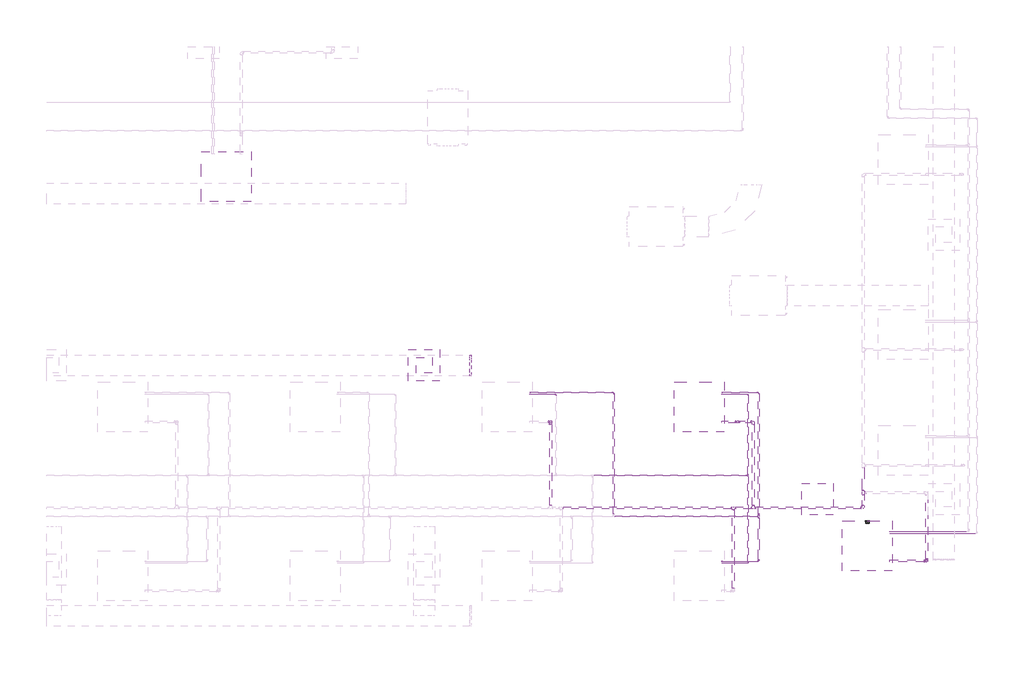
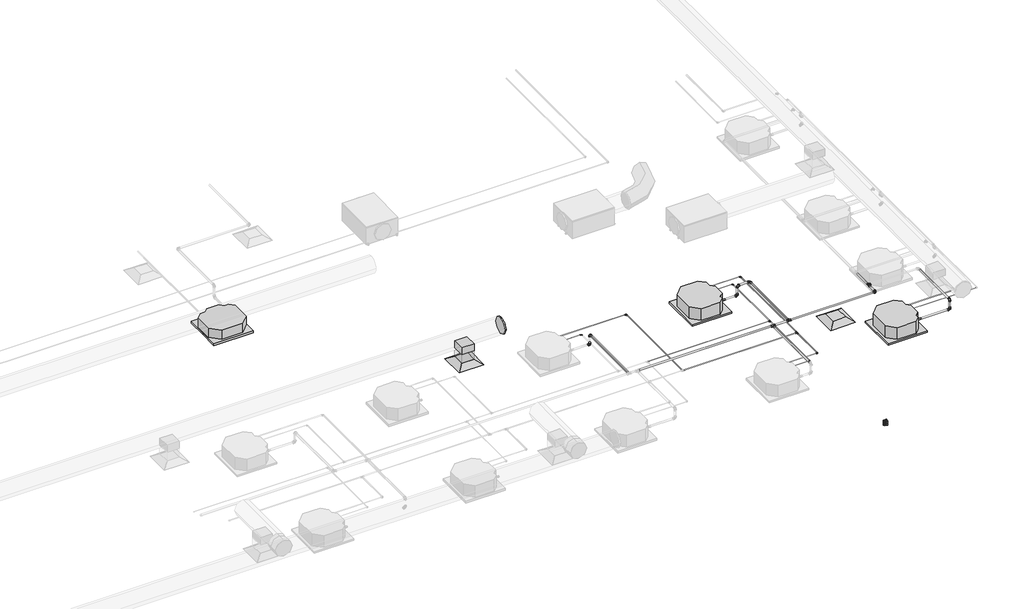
# One storey, part 11 of 22: 30 pipe fittings, 29 pipe segments, 6 proxies, 2 air terminals, 2 duct fittings, 1 cable carrier fitting, 1 duct segment.
"""IFC4 building model written with IfcOpenShell, lengths in millimetres."""

from ifc_helpers import new_model, si_unit, point, frame, frame_2d, origin, place, context, project, spatial, polyline, circle_curve, trimmed, segment, composite_curve, outline, extrude, transform, mapped, element, save
from components import air_terminal_ff221211, electrical_fixtures_bbed43ca, electrical_fixtures_7f7a4e67, mechanical_equipment_77aa587a, mechanical_equipment_53173f38, cable_carrier_fitting_5224564e, duct_fitting_95c1ddea, m_capa_de_extremidade_redonda_c14c7098, pipe_fitting_144f4440, pipe_fitting_14eb6376, pipe_fitting_50f5d43d, pipe_fitting_bac944c5, pipe_fitting_337ff715, pipe_fitting_c900cfc2, pipe_fitting_16c020f5, pipe_fitting_afe73776, pipe_fitting_09966660, pipe_fitting_59d1f3e3, pipe_fitting_648138cd, pipe_fitting_725bd888, pipe_fitting_af483176

model = new_model("IFC4")

# Units and contexts
model_context = context("Model", 3, world=origin())
ifc_project = project(units=[si_unit("LENGTHUNIT", "METRE", prefix="MILLI")], contexts=[model_context])

# Site, building, storey
site = spatial("IfcSite", under=ifc_project)
building = spatial("IfcBuilding", under=site)
storey = spatial("IfcBuildingStorey", under=building, Name="Nível 2", Elevation=3880.0)

# Air terminals
placement = place(None, origin())
air_terminal_shape = air_terminal_ff221211(model_context)
element("IfcAirTerminal", 1, ObjectType="M_Difusor de retorno : 600 x 600 Face 300 x 300 Conexão", at=placement, inside=storey, context=model_context, shape_type="MappedRepresentation", body=[
    mapped(air_terminal_shape, transform((20232.8009118, -3994.5831069, 6880.0), x_axis=(0.0, -1.0, 0.0), y_axis=(1.0, 0.0, 0.0), z_axis=(0.0, 0.0, 1.0))),
])
element("IfcAirTerminal", 2, ObjectType="M_Difusor de retorno : 600 x 600 Face 300 x 300 Conexão", at=placement, inside=storey, context=model_context, shape_type="MappedRepresentation", body=[
    mapped(air_terminal_shape, transform((27714.7064473, -6543.2709697, 6880.0), x_axis=(-1.0, 0.0, 0.0), y_axis=(0.0, -1.0, 0.0), z_axis=(0.0, 0.0, 1.0))),
])

# Proxies
electrical_fixtures_shape = electrical_fixtures_bbed43ca(model_context)
element("IfcBuildingElementProxy", 3, Name="1.b_2 Tomadas 2P+T_Conjunto 4x2 : a. 2 Tomadas 2P+T 10A", ObjectType="1.b_2 Tomadas 2P+T_Conjunto 4x2 : a. 2 Tomadas 2P+T 10A", at=placement, inside=storey, context=model_context, shape_type="MappedRepresentation", body=[
    mapped(electrical_fixtures_shape, transform((28661.1108592, -6958.2885675, 3880.0), x_axis=(1.0, 0.0, 0.0), y_axis=(0.0, 1.0, 0.0), z_axis=(0.0, 0.0, 1.0))),
])
electrical_fixtures_2_shape = electrical_fixtures_7f7a4e67(model_context)
element("IfcBuildingElementProxy", 4, Name="x.Módulo de Tomada não listavel 2 : x.Módulo de Tomada não listavel 2", ObjectType="x.Módulo de Tomada não listavel 2 : x.Módulo de Tomada não listavel 2", at=placement, inside=storey, context=model_context, shape_type="MappedRepresentation", body=[
    mapped(electrical_fixtures_2_shape, transform((28661.1108592, -6958.2885675, 4189.2969249), x_axis=(1.0, 0.0, 0.0), y_axis=(0.0, 1.0, 0.0), z_axis=(0.0, 0.0, 1.0))),
])
element("IfcBuildingElementProxy", 5, Name="x.Módulo de Tomada não listavel 2 : x.Módulo de Tomada não listavel 2", ObjectType="x.Módulo de Tomada não listavel 2 : x.Módulo de Tomada não listavel 2", at=placement, inside=storey, context=model_context, shape_type="MappedRepresentation", body=[
    mapped(electrical_fixtures_2_shape, transform((28661.1108592, -6958.2885675, 4152.7030751), x_axis=(1.0, 0.0, 0.0), y_axis=(0.0, 1.0, 0.0), z_axis=(0.0, 0.0, 1.0))),
])
mechanical_equipment_shape = mechanical_equipment_77aa587a(model_context)
element("IfcBuildingElementProxy", 6, Name="Midea_VRF_Indoor_4-way Cassette_MI-56(71,80)Q4_DHN1-D (2nd DC) : MI2-71Q4DHN1", ObjectType="Midea_VRF_Indoor_4-way Cassette_MI-56(71,80)Q4_DHN1-D (2nd DC) : MI2-71Q4DHN1", at=placement, inside=storey, context=model_context, shape_type="MappedRepresentation", body=[
    mapped(mechanical_equipment_shape, transform((16471.9773177, -404.0991848, 6880.0), x_axis=(0.0, 1.0, 0.0), y_axis=(-1.0, 0.0, 0.0), z_axis=(0.0, 0.0, 1.0))),
])
mechanical_equipment_2_shape = mechanical_equipment_53173f38(model_context)
element("IfcBuildingElementProxy", 7, Name="Midea_VRF_Indoor_4-way Cassette_MI-90(100,112,140)Q4_DHN1-D (2nd DC) : MI2-140Q4DHN1", ObjectType="Midea_VRF_Indoor_4-way Cassette_MI-90(100,112,140)Q4_DHN1-D (2nd DC) : MI2-140Q4DHN1", at=placement, inside=storey, context=model_context, shape_type="MappedRepresentation", body=[
    mapped(mechanical_equipment_2_shape, transform((25466.3682756, -4786.5566502, 6880.0), x_axis=(1.0, 0.0, 0.0), y_axis=(0.0, 1.0, 0.0), z_axis=(0.0, 0.0, 1.0))),
])
element("IfcBuildingElementProxy", 8, Name="Midea_VRF_Indoor_4-way Cassette_MI-90(100,112,140)Q4_DHN1-D (2nd DC) : MI2-140Q4DHN1", ObjectType="Midea_VRF_Indoor_4-way Cassette_MI-90(100,112,140)Q4_DHN1-D (2nd DC) : MI2-140Q4DHN1", at=placement, inside=storey, context=model_context, shape_type="MappedRepresentation", body=[
    mapped(mechanical_equipment_2_shape, transform((28661.1108592, -7433.2885675, 6880.0), x_axis=(1.0, 0.0, 0.0), y_axis=(0.0, 1.0, 0.0), z_axis=(0.0, 0.0, 1.0))),
])

# Cable carrier fitting
cable_carrier_fitting_shape = cable_carrier_fitting_5224564e(model_context)
element("IfcCableCarrierFitting", 9, ObjectType="PVC Corrugado Amarelo_Caixa de Luz 4x2 : PVC Corrugado Amarelo_Caixa de Luz 4x2", at=placement, inside=storey, context=model_context, shape_type="MappedRepresentation", body=[
    mapped(cable_carrier_fitting_shape, transform((28661.1108592, -6958.2885675, 4180.0), x_axis=(-1.0000000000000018, 0.0, 0.0), y_axis=(0.0, -1.0000000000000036, 0.0), z_axis=(0.0, 0.0, 1.0000000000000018))),
])

# Duct fittings
duct_fitting_shape = duct_fitting_95c1ddea(model_context)
element("IfcDuctFitting", 10, ObjectType="M_Encaixe de duto retangular : Padrão", at=placement, inside=storey, context=model_context, shape_type="MappedRepresentation", body=[
    mapped(duct_fitting_shape, transform((20232.8009118, -3994.5831069, 7301.0), x_axis=(0.0, 0.0, -1.0), y_axis=(-1.0, 0.0, 0.0), z_axis=(0.0, 1.0, 0.0))),
])
m_capa_de_extremidade_redonda_shape = m_capa_de_extremidade_redonda_c14c7098(model_context)
element("IfcDuctFitting", 11, ObjectType="M_Capa de extremidade redonda : Padrão", at=placement, inside=storey, context=model_context, shape_type="MappedRepresentation", body=[
    mapped(m_capa_de_extremidade_redonda_shape, transform((21103.5312703, -3994.5831069, 7501.0), x_axis=(1.0, 0.0, 0.0), y_axis=(0.0, 1.0, 0.0), z_axis=(0.0, 0.0, 1.0))),
])

# Duct segment
element("IfcDuctSegment", 12, ObjectType="Raios cotovelos / torneiras", at=placement, inside=storey, context=model_context, shape_type="SweptSolid", body=[
    extrude(outline(polyline([(20382.8009118, -4144.5831069), (20082.8009118, -4144.5831069), (20082.8009118, -3844.5831069), (20382.8009118, -3844.5831069), (20382.8009118, -4144.5831069)])), frame((0.0, 0.0, 6981.6), z_axis=(0.0, 0.0, 1.0), x_axis=(1.0, 0.0, 0.0)), (0.0, 0.0, 1.0), 217.8),
])

# Pipe fittings
pipe_fitting_shape = pipe_fitting_144f4440(model_context)
element("IfcPipeFitting", 13, ObjectType="Cotovelo - PVC - CW : Padrão", at=placement, inside=storey, context=model_context, shape_type="MappedRepresentation", body=[
    mapped(pipe_fitting_shape, transform((22637.148304, -5071.5566502, 7380.0), x_axis=(0.0, 0.0, 1.0), y_axis=(0.0, -1.0, 0.0), z_axis=(1.0, 0.0, 0.0))),
])
element("IfcPipeFitting", 14, ObjectType="Cotovelo - PVC - CW : Padrão", at=placement, inside=storey, context=model_context, shape_type="MappedRepresentation", body=[
    mapped(pipe_fitting_shape, transform((28580.398304, -6706.7007344, 7380.0), x_axis=(1.0, 0.0, 0.0), y_axis=(0.0, 1.0, 0.0), z_axis=(0.0, 0.0, 1.0))),
])
element("IfcPipeFitting", 15, ObjectType="Cotovelo - PVC - CW : Padrão", at=placement, inside=storey, context=model_context, shape_type="MappedRepresentation", body=[
    mapped(pipe_fitting_shape, transform((29786.1108591, -7718.2885675, 7380.0), x_axis=(0.0, 0.0, 1.0), y_axis=(0.0, 1.0, 0.0), z_axis=(-1.0, 0.0, 0.0))),
])
element("IfcPipeFitting", 16, ObjectType="Cotovelo - PVC - CW : Padrão", at=placement, inside=storey, context=model_context, shape_type="MappedRepresentation", body=[
    mapped(pipe_fitting_shape, transform((26191.3682756, -5071.5566502, 7380.0), x_axis=(0.0, 0.0, 1.0), y_axis=(1.0, 0.0, 0.0), z_axis=(0.0, 1.0, 0.0))),
])
element("IfcPipeFitting", 17, ObjectType="Cotovelo - PVC - CW : Padrão", at=placement, inside=storey, context=model_context, shape_type="MappedRepresentation", body=[
    mapped(pipe_fitting_shape, transform((26491.3682756, -5071.5566502, 7380.0), x_axis=(0.0, 1.0, 0.0), y_axis=(-1.0, 0.0, 0.0), z_axis=(0.0, 0.0, 1.0))),
])
pipe_fitting_2_shape = pipe_fitting_14eb6376(model_context)
element("IfcPipeFitting", 18, ObjectType="Tê de redução - PVC - CW : Padrão", at=placement, inside=storey, context=model_context, shape_type="MappedRepresentation", body=[
    mapped(pipe_fitting_2_shape, transform((28580.398304, -6418.2885675, 7380.0), x_axis=(0.0, -1.0, 0.0), y_axis=(-1.0, 0.0, 0.0), z_axis=(0.0, 0.0, -1.0))),
])
element("IfcPipeFitting", 19, ObjectType="Tê de redução - PVC - CW : Padrão", at=placement, inside=storey, context=model_context, shape_type="MappedRepresentation", body=[
    mapped(pipe_fitting_2_shape, transform((26111.3682755, -6706.7007344, 7380.0), x_axis=(-1.0, 0.0, 0.0), y_axis=(0.0, 1.0, 0.0), z_axis=(0.0, 0.0, -1.0))),
])
element("IfcPipeFitting", 20, ObjectType="Tê de redução - PVC - CW : Padrão", at=placement, inside=storey, context=model_context, shape_type="MappedRepresentation", body=[
    mapped(pipe_fitting_2_shape, transform((26491.3682756, -6706.7007344, 7380.0), x_axis=(-1.0, 0.0, 0.0), y_axis=(0.0, -1.0, 0.0), z_axis=(0.0, 0.0, 1.0))),
])
pipe_fitting_3_shape = pipe_fitting_50f5d43d(model_context)
element("IfcPipeFitting", 21, ObjectType="Cotovelo - PVC - CW : Padrão", at=placement, inside=storey, context=model_context, shape_type="MappedRepresentation", body=[
    mapped(pipe_fitting_3_shape, transform((26191.3682756, -5071.5566502, 7132.304255), x_axis=(0.9999999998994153, 0.0, -1.4183422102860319e-05), y_axis=(1.4183422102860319e-05, 0.0, 0.9999999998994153), z_axis=(0.0, -1.0, 0.0))),
])
pipe_fitting_4_shape = pipe_fitting_bac944c5(model_context)
element("IfcPipeFitting", 22, ObjectType="Cotovelo - PVC - CW : Padrão", at=placement, inside=storey, context=model_context, shape_type="MappedRepresentation", body=[
    mapped(pipe_fitting_4_shape, transform((22637.148304, -5071.5566502, 7132.3), x_axis=(0.9999999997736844, 0.0, -2.127513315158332e-05), y_axis=(2.127513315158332e-05, 0.0, 0.9999999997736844), z_axis=(0.0, -1.0, 0.0))),
])
pipe_fitting_5_shape = pipe_fitting_337ff715(model_context)
element("IfcPipeFitting", 23, ObjectType="Cotovelo - PVC - CW : Padrão", at=placement, inside=storey, context=model_context, shape_type="MappedRepresentation", body=[
    mapped(pipe_fitting_5_shape, transform((29786.1108591, -7718.2885675, 7132.3), x_axis=(0.9999999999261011, 0.0, -1.2157218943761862e-05), y_axis=(1.2157218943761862e-05, 0.0, 0.9999999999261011), z_axis=(0.0, -1.0, 0.0))),
])
pipe_fitting_6_shape = pipe_fitting_c900cfc2(model_context)
element("IfcPipeFitting", 24, ObjectType="Bucha de redução reta - Soldada - CU : Padrão", at=placement, inside=storey, context=model_context, shape_type="MappedRepresentation", body=[
    mapped(pipe_fitting_6_shape, transform((25891.3682756, -7728.7092137, 7132.3085101), x_axis=(1.0, 0.0, 0.0), y_axis=(0.0, 1.0, 0.0), z_axis=(0.0, 0.0, 1.0))),
])
element("IfcPipeFitting", 25, ObjectType="Bucha de redução reta - Soldada - CU : Padrão", at=placement, inside=storey, context=model_context, shape_type="MappedRepresentation", body=[
    mapped(pipe_fitting_6_shape, transform((22237.1483041, -4513.3458366, 7132.3085101), x_axis=(1.0, 0.0, 0.0), y_axis=(0.0, 1.0, 0.0), z_axis=(0.0, 0.0, 1.0))),
])
element("IfcPipeFitting", 26, ObjectType="Bucha de redução reta - Soldada - CU : Padrão", at=placement, inside=storey, context=model_context, shape_type="MappedRepresentation", body=[
    mapped(pipe_fitting_6_shape, transform((25891.3682756, -4513.3458366, 7132.3085101), x_axis=(1.0, 0.0, 0.0), y_axis=(0.0, 1.0, 0.0), z_axis=(0.0, 0.0, 1.0))),
])
element("IfcPipeFitting", 27, ObjectType="Bucha de redução reta - Soldada - CU : Padrão", at=placement, inside=storey, context=model_context, shape_type="MappedRepresentation", body=[
    mapped(pipe_fitting_6_shape, transform((29086.1108592, -7160.0777538, 7132.3085101), x_axis=(1.0, 0.0, 0.0), y_axis=(0.0, 1.0, 0.0), z_axis=(0.0, 0.0, 1.0))),
])
pipe_fitting_7_shape = pipe_fitting_16c020f5(model_context)
element("IfcPipeFitting", 28, ObjectType="Cotovelo - Soldado - CU : Padrão", at=placement, inside=storey, context=model_context, shape_type="MappedRepresentation", body=[
    mapped(pipe_fitting_7_shape, transform((26591.3682756, -7728.7092137, 7132.3085101), x_axis=(1.0, 0.0, 0.0), y_axis=(0.0, 1.0, 0.0), z_axis=(0.0, 0.0, 1.0))),
])
element("IfcPipeFitting", 29, ObjectType="Cotovelo - Soldado - CU : Padrão", at=placement, inside=storey, context=model_context, shape_type="MappedRepresentation", body=[
    mapped(pipe_fitting_7_shape, transform((23837.1483041, -4513.3458366, 7132.3085101), x_axis=(0.0, 1.0, 0.0), y_axis=(-1.0, 0.0, 0.0), z_axis=(0.0, 0.0, 1.0))),
])
element("IfcPipeFitting", 30, ObjectType="Cotovelo - Soldado - CU : Padrão", at=placement, inside=storey, context=model_context, shape_type="MappedRepresentation", body=[
    mapped(pipe_fitting_7_shape, transform((26591.3682756, -4513.3458366, 7132.3085101), x_axis=(0.0, 1.0, 0.0), y_axis=(-1.0, 0.0, 0.0), z_axis=(0.0, 0.0, 1.0))),
])
pipe_fitting_8_shape = pipe_fitting_afe73776(model_context)
element("IfcPipeFitting", 31, ObjectType="Bucha de redução reta - Soldada - CU : Padrão", at=placement, inside=storey, context=model_context, shape_type="MappedRepresentation", body=[
    mapped(pipe_fitting_8_shape, transform((26591.3682756, -6898.1629422, 7132.3085101), x_axis=(0.0, -1.0, 0.0), y_axis=(1.0, 0.0, 0.0), z_axis=(0.0, 0.0, 1.0))),
])
element("IfcPipeFitting", 32, ObjectType="Bucha de redução reta - Soldada - CU : Padrão", at=placement, inside=storey, context=model_context, shape_type="MappedRepresentation", body=[
    mapped(pipe_fitting_8_shape, transform((26591.3682756, -6837.7724422, 7132.3085101), x_axis=(0.0, 1.0, 0.0), y_axis=(-1.0, 0.0, 0.0), z_axis=(0.0, 0.0, 1.0))),
])
pipe_fitting_9_shape = pipe_fitting_09966660(model_context)
element("IfcPipeFitting", 33, ObjectType="Tê - Soldado - CU : Padrão", at=placement, inside=storey, context=model_context, shape_type="MappedRepresentation", body=[
    mapped(pipe_fitting_9_shape, transform((26591.3682756, -6867.9676922, 7132.3085101), x_axis=(0.0, -1.0, 0.0), y_axis=(1.0, 0.0, 0.0), z_axis=(0.0, 0.0, 1.0))),
])
pipe_fitting_10_shape = pipe_fitting_59d1f3e3(model_context)
element("IfcPipeFitting", 34, ObjectType="Bucha de redução reta - Soldada - CU : Padrão", at=placement, inside=storey, context=model_context, shape_type="MappedRepresentation", body=[
    mapped(pipe_fitting_10_shape, transform((25891.3682756, -4547.1482784, 7026.8446487), x_axis=(1.0, 0.0, 0.0), y_axis=(0.0, 1.0, 0.0), z_axis=(0.0, 0.0, 1.0))),
])
element("IfcPipeFitting", 35, ObjectType="Bucha de redução reta - Soldada - CU : Padrão", at=placement, inside=storey, context=model_context, shape_type="MappedRepresentation", body=[
    mapped(pipe_fitting_10_shape, transform((25891.3682756, -7762.5116556, 7026.8446487), x_axis=(1.0, 0.0, 0.0), y_axis=(0.0, 1.0, 0.0), z_axis=(0.0, 0.0, 1.0))),
])
element("IfcPipeFitting", 36, ObjectType="Bucha de redução reta - Soldada - CU : Padrão", at=placement, inside=storey, context=model_context, shape_type="MappedRepresentation", body=[
    mapped(pipe_fitting_10_shape, transform((22237.1483041, -4547.1482784, 7026.8446487), x_axis=(1.0, 0.0, 0.0), y_axis=(0.0, 1.0, 0.0), z_axis=(0.0, 0.0, 1.0))),
])
element("IfcPipeFitting", 37, ObjectType="Bucha de redução reta - Soldada - CU : Padrão", at=placement, inside=storey, context=model_context, shape_type="MappedRepresentation", body=[
    mapped(pipe_fitting_10_shape, transform((29086.1108592, -7193.8801956, 7026.8446487), x_axis=(1.0, 0.0, 0.0), y_axis=(0.0, 1.0, 0.0), z_axis=(0.0, 0.0, 1.0))),
])
pipe_fitting_11_shape = pipe_fitting_648138cd(model_context)
element("IfcPipeFitting", 38, ObjectType="Cotovelo - Soldado - CU : Padrão", at=placement, inside=storey, context=model_context, shape_type="MappedRepresentation", body=[
    mapped(pipe_fitting_11_shape, transform((26391.3682756, -4547.1482784, 7026.8446487), x_axis=(0.0, 1.0, 0.0), y_axis=(-1.0, 0.0, 0.0), z_axis=(0.0, 0.0, 1.0))),
])
element("IfcPipeFitting", 39, ObjectType="Cotovelo - Soldado - CU : Padrão", at=placement, inside=storey, context=model_context, shape_type="MappedRepresentation", body=[
    mapped(pipe_fitting_11_shape, transform((26391.3682756, -7762.5116556, 7026.8446487), x_axis=(1.0, 0.0, 0.0), y_axis=(0.0, 1.0, 0.0), z_axis=(0.0, 0.0, 1.0))),
])
element("IfcPipeFitting", 40, ObjectType="Cotovelo - Soldado - CU : Padrão", at=placement, inside=storey, context=model_context, shape_type="MappedRepresentation", body=[
    mapped(pipe_fitting_11_shape, transform((22737.1483041, -4547.1482784, 7026.8446487), x_axis=(0.0, 1.0, 0.0), y_axis=(-1.0, 0.0, 0.0), z_axis=(0.0, 0.0, 1.0))),
])
pipe_fitting_12_shape = pipe_fitting_725bd888(model_context)
element("IfcPipeFitting", 41, ObjectType="Tê - Soldado - CU : Padrão", at=placement, inside=storey, context=model_context, shape_type="MappedRepresentation", body=[
    mapped(pipe_fitting_12_shape, transform((26391.3682756, -6091.0991488, 7026.8446487), x_axis=(0.0, 1.0, 0.0), y_axis=(1.0, 0.0, 0.0), z_axis=(0.0, 0.0, -1.0))),
])
pipe_fitting_13_shape = pipe_fitting_af483176(model_context)
element("IfcPipeFitting", 42, ObjectType="Bucha de redução reta - Soldada - CU : Padrão", at=placement, inside=storey, context=model_context, shape_type="MappedRepresentation", body=[
    mapped(pipe_fitting_13_shape, transform((26368.9270756, -6091.0991488, 7026.8446487), x_axis=(-1.0, 0.0, 0.0), y_axis=(0.0, -1.0, 0.0), z_axis=(0.0, 0.0, 1.0))),
])

# Pipe segments
element("IfcPipeSegment", 43, ObjectType="Tubos de cobre HVAC", at=placement, inside=storey, context=model_context, shape_type="SweptSolid", body=[
    extrude(outline(composite_curve([segment(trimmed(circle_curve(frame_2d((-6867.9676922, 7132.3085101)), 9.525), [point((-6877.4926922, 7132.3085101))], [point((-6867.9676922, 7141.8335101))], False, "CARTESIAN"), True, "CONTINUOUS"), segment(trimmed(circle_curve(frame_2d((-6867.9676922, 7132.3085101)), 9.525), [point((-6867.9676922, 7141.8335101))], [point((-6858.4426922, 7132.3085101))], False, "CARTESIAN"), True, "CONTINUOUS"), segment(trimmed(circle_curve(frame_2d((-6867.9676922, 7132.3085101)), 9.525), [point((-6858.4426922, 7132.3085101))], [point((-6867.9676922, 7122.7835101))], False, "CARTESIAN"), True, "CONTINUOUS"), segment(trimmed(circle_curve(frame_2d((-6867.9676922, 7132.3085101)), 9.525), [point((-6867.9676922, 7122.7835101))], [point((-6877.4926922, 7132.3085101))], False, "CARTESIAN"), True, "CONTINUOUS")], self_intersect=False)), frame((23867.3435541, 0.0, 0.0), z_axis=(1.0, 0.0, 0.0), x_axis=(0.0, 1.0, 0.0)), (0.0, 0.0, 1.0), 2693.8642215),
])
element("IfcPipeSegment", 44, ObjectType="Tubos de cobre HVAC", at=placement, inside=storey, context=model_context, shape_type="SweptSolid", body=[
    extrude(outline(composite_curve([segment(trimmed(circle_curve(frame_2d((-7728.7092137, 7132.3085101)), 7.935), [point((-7736.6442137, 7132.3085101))], [point((-7728.7092137, 7140.2435101))], False, "CARTESIAN"), True, "CONTINUOUS"), segment(trimmed(circle_curve(frame_2d((-7728.7092137, 7132.3085101)), 7.935), [point((-7728.7092137, 7140.2435101))], [point((-7720.7742137, 7132.3085101))], False, "CARTESIAN"), True, "CONTINUOUS"), segment(trimmed(circle_curve(frame_2d((-7728.7092137, 7132.3085101)), 7.935), [point((-7720.7742137, 7132.3085101))], [point((-7728.7092137, 7124.3735101))], False, "CARTESIAN"), True, "CONTINUOUS"), segment(trimmed(circle_curve(frame_2d((-7728.7092137, 7132.3085101)), 7.935), [point((-7728.7092137, 7124.3735101))], [point((-7736.6442137, 7132.3085101))], False, "CARTESIAN"), True, "CONTINUOUS")], self_intersect=False)), frame((25904.0271756, 0.0, 0.0), z_axis=(1.0, 0.0, 0.0), x_axis=(0.0, 1.0, 0.0)), (0.0, 0.0, 1.0), 658.3625),
])
element("IfcPipeSegment", 45, ObjectType="Tubos de cobre HVAC", at=placement, inside=storey, context=model_context, shape_type="SweptSolid", body=[
    extrude(outline(composite_curve([segment(trimmed(circle_curve(frame_2d((7132.3085101, 26591.3682756)), 7.935), [point((7132.3085101, 26599.3032756))], [point((7140.2435101, 26591.3682756))], False, "CARTESIAN"), True, "CONTINUOUS"), segment(trimmed(circle_curve(frame_2d((7132.3085101, 26591.3682756)), 7.935), [point((7140.2435101, 26591.3682756))], [point((7132.3085101, 26583.4332756))], False, "CARTESIAN"), True, "CONTINUOUS"), segment(trimmed(circle_curve(frame_2d((7132.3085101, 26591.3682756)), 7.935), [point((7132.3085101, 26583.4332756))], [point((7124.3735101, 26591.3682756))], False, "CARTESIAN"), True, "CONTINUOUS"), segment(trimmed(circle_curve(frame_2d((7132.3085101, 26591.3682756)), 7.935), [point((7124.3735101, 26591.3682756))], [point((7132.3085101, 26599.3032756))], False, "CARTESIAN"), True, "CONTINUOUS")], self_intersect=False)), frame((0.0, -6825.1135422, 0.0), z_axis=(0.0, 1.0, 0.0), x_axis=(0.0, 0.0, 1.0)), (0.0, 0.0, 1.0), 2282.7891057),
])
element("IfcPipeSegment", 46, ObjectType="Tubos de cobre HVAC", at=placement, inside=storey, context=model_context, shape_type="SweptSolid", body=[
    extrude(outline(composite_curve([segment(trimmed(circle_curve(frame_2d((7132.3085101, 26591.3682756)), 7.935), [point((7132.3085101, 26599.3032756))], [point((7140.2435101, 26591.3682756))], False, "CARTESIAN"), True, "CONTINUOUS"), segment(trimmed(circle_curve(frame_2d((7132.3085101, 26591.3682756)), 7.935), [point((7140.2435101, 26591.3682756))], [point((7132.3085101, 26583.4332756))], False, "CARTESIAN"), True, "CONTINUOUS"), segment(trimmed(circle_curve(frame_2d((7132.3085101, 26591.3682756)), 7.935), [point((7132.3085101, 26583.4332756))], [point((7124.3735101, 26591.3682756))], False, "CARTESIAN"), True, "CONTINUOUS"), segment(trimmed(circle_curve(frame_2d((7132.3085101, 26591.3682756)), 7.935), [point((7124.3735101, 26591.3682756))], [point((7132.3085101, 26599.3032756))], False, "CARTESIAN"), True, "CONTINUOUS")], self_intersect=False)), frame((0.0, -7699.7306137, 0.0), z_axis=(0.0, 1.0, 0.0), x_axis=(0.0, 0.0, 1.0)), (0.0, 0.0, 1.0), 788.9087715),
])
element("IfcPipeSegment", 47, ObjectType="Tubos de cobre HVAC", at=placement, inside=storey, context=model_context, shape_type="SweptSolid", body=[
    extrude(outline(composite_curve([segment(trimmed(circle_curve(frame_2d((-4513.3458366, 7132.3085101)), 7.935), [point((-4521.2808366, 7132.3085101))], [point((-4513.3458366, 7140.2435101))], False, "CARTESIAN"), True, "CONTINUOUS"), segment(trimmed(circle_curve(frame_2d((-4513.3458366, 7132.3085101)), 7.935), [point((-4513.3458366, 7140.2435101))], [point((-4505.4108366, 7132.3085101))], False, "CARTESIAN"), True, "CONTINUOUS"), segment(trimmed(circle_curve(frame_2d((-4513.3458366, 7132.3085101)), 7.935), [point((-4505.4108366, 7132.3085101))], [point((-4513.3458366, 7124.3735101))], False, "CARTESIAN"), True, "CONTINUOUS"), segment(trimmed(circle_curve(frame_2d((-4513.3458366, 7132.3085101)), 7.935), [point((-4513.3458366, 7124.3735101))], [point((-4521.2808366, 7132.3085101))], False, "CARTESIAN"), True, "CONTINUOUS")], self_intersect=False)), frame((22249.8072041, 0.0, 0.0), z_axis=(1.0, 0.0, 0.0), x_axis=(0.0, 1.0, 0.0)), (0.0, 0.0, 1.0), 1558.3625),
])
element("IfcPipeSegment", 48, ObjectType="Tubos de cobre HVAC", at=placement, inside=storey, context=model_context, shape_type="SweptSolid", body=[
    extrude(outline(composite_curve([segment(trimmed(circle_curve(frame_2d((7132.3085101, 23837.1483041)), 7.935), [point((7132.3085101, 23845.0833041))], [point((7140.2435101, 23837.1483041))], False, "CARTESIAN"), True, "CONTINUOUS"), segment(trimmed(circle_curve(frame_2d((7132.3085101, 23837.1483041)), 7.935), [point((7140.2435101, 23837.1483041))], [point((7132.3085101, 23829.2133041))], False, "CARTESIAN"), True, "CONTINUOUS"), segment(trimmed(circle_curve(frame_2d((7132.3085101, 23837.1483041)), 7.935), [point((7132.3085101, 23829.2133041))], [point((7124.3735101, 23837.1483041))], False, "CARTESIAN"), True, "CONTINUOUS"), segment(trimmed(circle_curve(frame_2d((7132.3085101, 23837.1483041)), 7.935), [point((7124.3735101, 23837.1483041))], [point((7132.3085101, 23845.0833041))], False, "CARTESIAN"), True, "CONTINUOUS")], self_intersect=False)), frame((0.0, -6825.1482922, 0.0), z_axis=(0.0, 1.0, 0.0), x_axis=(0.0, 0.0, 1.0)), (0.0, 0.0, 1.0), 2282.8238557),
])
element("IfcPipeSegment", 49, ObjectType="Tubos de cobre HVAC", at=placement, inside=storey, context=model_context, shape_type="SweptSolid", body=[
    extrude(outline(composite_curve([segment(trimmed(circle_curve(frame_2d((-4513.3458366, 7132.3085101)), 7.935), [point((-4521.2808366, 7132.3085101))], [point((-4513.3458366, 7140.2435101))], False, "CARTESIAN"), True, "CONTINUOUS"), segment(trimmed(circle_curve(frame_2d((-4513.3458366, 7132.3085101)), 7.935), [point((-4513.3458366, 7140.2435101))], [point((-4505.4108366, 7132.3085101))], False, "CARTESIAN"), True, "CONTINUOUS"), segment(trimmed(circle_curve(frame_2d((-4513.3458366, 7132.3085101)), 7.935), [point((-4505.4108366, 7132.3085101))], [point((-4513.3458366, 7124.3735101))], False, "CARTESIAN"), True, "CONTINUOUS"), segment(trimmed(circle_curve(frame_2d((-4513.3458366, 7132.3085101)), 7.935), [point((-4513.3458366, 7124.3735101))], [point((-4521.2808366, 7132.3085101))], False, "CARTESIAN"), True, "CONTINUOUS")], self_intersect=False)), frame((25904.0271756, 0.0, 0.0), z_axis=(1.0, 0.0, 0.0), x_axis=(0.0, 1.0, 0.0)), (0.0, 0.0, 1.0), 658.3625),
])
element("IfcPipeSegment", 50, ObjectType="Tubos de cobre HVAC", at=placement, inside=storey, context=model_context, shape_type="SweptSolid", body=[
    extrude(outline(composite_curve([segment(trimmed(circle_curve(frame_2d((-6091.0991488, 7026.8446487)), 6.35), [point((-6097.4491488, 7026.8446487))], [point((-6091.0991488, 7033.1946487))], False, "CARTESIAN"), True, "CONTINUOUS"), segment(trimmed(circle_curve(frame_2d((-6091.0991488, 7026.8446487)), 6.35), [point((-6091.0991488, 7033.1946487))], [point((-6084.7491488, 7026.8446487))], False, "CARTESIAN"), True, "CONTINUOUS"), segment(trimmed(circle_curve(frame_2d((-6091.0991488, 7026.8446487)), 6.35), [point((-6084.7491488, 7026.8446487))], [point((-6091.0991488, 7020.4946487))], False, "CARTESIAN"), True, "CONTINUOUS"), segment(trimmed(circle_curve(frame_2d((-6091.0991488, 7026.8446487)), 6.35), [point((-6091.0991488, 7020.4946487))], [point((-6097.4491488, 7026.8446487))], False, "CARTESIAN"), True, "CONTINUOUS")], self_intersect=False)), frame((23462.2318041, 0.0, 0.0), z_axis=(1.0, 0.0, 0.0), x_axis=(0.0, 1.0, 0.0)), (0.0, 0.0, 1.0), 2897.0208715),
])
element("IfcPipeSegment", 51, ObjectType="Tubos de cobre HVAC", at=placement, inside=storey, context=model_context, shape_type="SweptSolid", body=[
    extrude(outline(composite_curve([segment(trimmed(circle_curve(frame_2d((-4547.1482784, 7026.8446487)), 4.76), [point((-4551.9082784, 7026.8446487))], [point((-4547.1482784, 7031.6046487))], False, "CARTESIAN"), True, "CONTINUOUS"), segment(trimmed(circle_curve(frame_2d((-4547.1482784, 7026.8446487)), 4.76), [point((-4547.1482784, 7031.6046487))], [point((-4542.3882784, 7026.8446487))], False, "CARTESIAN"), True, "CONTINUOUS"), segment(trimmed(circle_curve(frame_2d((-4547.1482784, 7026.8446487)), 4.76), [point((-4542.3882784, 7026.8446487))], [point((-4547.1482784, 7022.0846487))], False, "CARTESIAN"), True, "CONTINUOUS"), segment(trimmed(circle_curve(frame_2d((-4547.1482784, 7026.8446487)), 4.76), [point((-4547.1482784, 7022.0846487))], [point((-4551.9082784, 7026.8446487))], False, "CARTESIAN"), True, "CONTINUOUS")], self_intersect=False)), frame((25901.0426756, 0.0, 0.0), z_axis=(1.0, 0.0, 0.0), x_axis=(0.0, 1.0, 0.0)), (0.0, 0.0, 1.0), 466.3),
])
element("IfcPipeSegment", 52, ObjectType="Tubos de cobre HVAC", at=placement, inside=storey, context=model_context, shape_type="SweptSolid", body=[
    extrude(outline(composite_curve([segment(trimmed(circle_curve(frame_2d((-7762.5116556, 7026.8446487)), 4.76), [point((-7767.2716556, 7026.8446487))], [point((-7762.5116556, 7031.6046487))], False, "CARTESIAN"), True, "CONTINUOUS"), segment(trimmed(circle_curve(frame_2d((-7762.5116556, 7026.8446487)), 4.76), [point((-7762.5116556, 7031.6046487))], [point((-7757.7516556, 7026.8446487))], False, "CARTESIAN"), True, "CONTINUOUS"), segment(trimmed(circle_curve(frame_2d((-7762.5116556, 7026.8446487)), 4.76), [point((-7757.7516556, 7026.8446487))], [point((-7762.5116556, 7022.0846487))], False, "CARTESIAN"), True, "CONTINUOUS"), segment(trimmed(circle_curve(frame_2d((-7762.5116556, 7026.8446487)), 4.76), [point((-7762.5116556, 7022.0846487))], [point((-7767.2716556, 7026.8446487))], False, "CARTESIAN"), True, "CONTINUOUS")], self_intersect=False)), frame((25901.0426756, 0.0, 0.0), z_axis=(1.0, 0.0, 0.0), x_axis=(0.0, 1.0, 0.0)), (0.0, 0.0, 1.0), 466.3),
])
element("IfcPipeSegment", 53, ObjectType="Tubos de cobre HVAC", at=placement, inside=storey, context=model_context, shape_type="SweptSolid", body=[
    extrude(outline(composite_curve([segment(trimmed(circle_curve(frame_2d((7026.8446487, 26391.3682756)), 4.76), [point((7026.8446487, 26386.6082756))], [point((7022.0846487, 26391.3682756))], False, "CARTESIAN"), True, "CONTINUOUS"), segment(trimmed(circle_curve(frame_2d((7026.8446487, 26391.3682756)), 4.76), [point((7022.0846487, 26391.3682756))], [point((7026.8446487, 26396.1282756))], False, "CARTESIAN"), True, "CONTINUOUS"), segment(trimmed(circle_curve(frame_2d((7026.8446487, 26391.3682756)), 4.76), [point((7026.8446487, 26396.1282756))], [point((7031.6046487, 26391.3682756))], False, "CARTESIAN"), True, "CONTINUOUS"), segment(trimmed(circle_curve(frame_2d((7026.8446487, 26391.3682756)), 4.76), [point((7031.6046487, 26391.3682756))], [point((7026.8446487, 26386.6082756))], False, "CARTESIAN"), True, "CONTINUOUS")], self_intersect=False)), frame((0.0, -7738.4860556, 0.0), z_axis=(0.0, 1.0, 0.0), x_axis=(0.0, 0.0, 1.0)), (0.0, 0.0, 1.0), 1624.8633068),
])
element("IfcPipeSegment", 54, ObjectType="Tubos de cobre HVAC", at=placement, inside=storey, context=model_context, shape_type="SweptSolid", body=[
    extrude(outline(composite_curve([segment(trimmed(circle_curve(frame_2d((7026.8446487, 26391.3682756)), 4.76), [point((7026.8446487, 26386.6082756))], [point((7022.0846487, 26391.3682756))], False, "CARTESIAN"), True, "CONTINUOUS"), segment(trimmed(circle_curve(frame_2d((7026.8446487, 26391.3682756)), 4.76), [point((7022.0846487, 26391.3682756))], [point((7026.8446487, 26396.1282756))], False, "CARTESIAN"), True, "CONTINUOUS"), segment(trimmed(circle_curve(frame_2d((7026.8446487, 26391.3682756)), 4.76), [point((7026.8446487, 26396.1282756))], [point((7031.6046487, 26391.3682756))], False, "CARTESIAN"), True, "CONTINUOUS"), segment(trimmed(circle_curve(frame_2d((7026.8446487, 26391.3682756)), 4.76), [point((7031.6046487, 26391.3682756))], [point((7026.8446487, 26386.6082756))], False, "CARTESIAN"), True, "CONTINUOUS")], self_intersect=False)), frame((0.0, -6068.5755488, 0.0), z_axis=(0.0, 1.0, 0.0), x_axis=(0.0, 0.0, 1.0)), (0.0, 0.0, 1.0), 1497.4016704),
])
element("IfcPipeSegment", 55, ObjectType="Tubos de cobre HVAC", at=placement, inside=storey, context=model_context, shape_type="SweptSolid", body=[
    extrude(outline(composite_curve([segment(trimmed(circle_curve(frame_2d((-4547.1482784, 7026.8446487)), 4.76), [point((-4551.9082784, 7026.8446487))], [point((-4547.1482784, 7031.6046487))], False, "CARTESIAN"), True, "CONTINUOUS"), segment(trimmed(circle_curve(frame_2d((-4547.1482784, 7026.8446487)), 4.76), [point((-4547.1482784, 7031.6046487))], [point((-4542.3882784, 7026.8446487))], False, "CARTESIAN"), True, "CONTINUOUS"), segment(trimmed(circle_curve(frame_2d((-4547.1482784, 7026.8446487)), 4.76), [point((-4542.3882784, 7026.8446487))], [point((-4547.1482784, 7022.0846487))], False, "CARTESIAN"), True, "CONTINUOUS"), segment(trimmed(circle_curve(frame_2d((-4547.1482784, 7026.8446487)), 4.76), [point((-4547.1482784, 7022.0846487))], [point((-4551.9082784, 7026.8446487))], False, "CARTESIAN"), True, "CONTINUOUS")], self_intersect=False)), frame((22246.8227041, 0.0, 0.0), z_axis=(1.0, 0.0, 0.0), x_axis=(0.0, 1.0, 0.0)), (0.0, 0.0, 1.0), 466.3),
])
element("IfcPipeSegment", 56, ObjectType="Tubos de cobre HVAC", at=placement, inside=storey, context=model_context, shape_type="SweptSolid", body=[
    extrude(outline(composite_curve([segment(trimmed(circle_curve(frame_2d((0.0, -7.935)), 7.935), [point((-7.935, -7.935))], [point((0.0, 0.0))], False, "CARTESIAN"), True, "CONTINUOUS"), segment(trimmed(circle_curve(frame_2d((0.0, -7.935)), 7.935), [point((0.0, 0.0))], [point((7.935, -7.935))], False, "CARTESIAN"), True, "CONTINUOUS"), segment(trimmed(circle_curve(frame_2d((0.0, -7.935)), 7.935), [point((7.935, -7.935))], [point((0.0, -15.87))], False, "CARTESIAN"), True, "CONTINUOUS"), segment(trimmed(circle_curve(frame_2d((0.0, -7.935)), 7.935), [point((0.0, -15.87))], [point((-7.935, -7.935))], False, "CARTESIAN"), True, "CONTINUOUS")], self_intersect=False)), frame((30557.1322136, -7160.0777538, 7124.3651307), z_axis=(-0.9999999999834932, 0.0, 5.7457513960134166e-06), x_axis=(0.0, 1.0, 0.0)), (0.0, 0.0, 1.0), 1458.3625),
])
element("IfcPipeSegment", 57, ObjectType="Tubos de cobre HVAC", at=placement, inside=storey, context=model_context, shape_type="SweptSolid", body=[
    extrude(outline(composite_curve([segment(trimmed(circle_curve(frame_2d((-7193.8801956, 7026.8446487)), 4.76), [point((-7198.6401956, 7026.8446487))], [point((-7193.8801956, 7031.6046487))], False, "CARTESIAN"), True, "CONTINUOUS"), segment(trimmed(circle_curve(frame_2d((-7193.8801956, 7026.8446487)), 4.76), [point((-7193.8801956, 7031.6046487))], [point((-7189.1201956, 7026.8446487))], False, "CARTESIAN"), True, "CONTINUOUS"), segment(trimmed(circle_curve(frame_2d((-7193.8801956, 7026.8446487)), 4.76), [point((-7189.1201956, 7026.8446487))], [point((-7193.8801956, 7022.0846487))], False, "CARTESIAN"), True, "CONTINUOUS"), segment(trimmed(circle_curve(frame_2d((-7193.8801956, 7026.8446487)), 4.76), [point((-7193.8801956, 7022.0846487))], [point((-7198.6401956, 7026.8446487))], False, "CARTESIAN"), True, "CONTINUOUS")], self_intersect=False)), frame((29095.7852592, 0.0, 0.0), z_axis=(1.0, 0.0, 0.0), x_axis=(0.0, 1.0, 0.0)), (0.0, 0.0, 1.0), 1626.3),
])
element("IfcPipeSegment", 58, ObjectType="Plástico", at=placement, inside=storey, context=model_context, shape_type="SweptSolid", body=[
    extrude(outline(composite_curve([segment(trimmed(circle_curve(frame_2d((7380.0, 22637.148304)), 20.0), [point((7380.0, 22657.148304))], [point((7400.0, 22637.148304))], False, "CARTESIAN"), True, "CONTINUOUS"), segment(trimmed(circle_curve(frame_2d((7380.0, 22637.148304)), 20.0), [point((7400.0, 22637.148304))], [point((7380.0, 22617.148304))], False, "CARTESIAN"), True, "CONTINUOUS"), segment(trimmed(circle_curve(frame_2d((7380.0, 22637.148304)), 20.0), [point((7380.0, 22617.148304))], [point((7360.0, 22637.148304))], False, "CARTESIAN"), True, "CONTINUOUS"), segment(trimmed(circle_curve(frame_2d((7380.0, 22637.148304)), 20.0), [point((7360.0, 22637.148304))], [point((7380.0, 22657.148304))], False, "CARTESIAN"), True, "CONTINUOUS")], self_intersect=False)), frame((0.0, -6662.7007344, 0.0), z_axis=(0.0, 1.0, 0.0), x_axis=(0.0, 0.0, 1.0)), (0.0, 0.0, 1.0), 1546.1440842),
])
element("IfcPipeSegment", 59, ObjectType="Plástico", at=placement, inside=storey, context=model_context, shape_type="SweptSolid", body=[
    extrude(outline(composite_curve([segment(trimmed(circle_curve(frame_2d((0.0, -20.0)), 20.0), [point((-20.0, -20.0))], [point((0.0, 0.0))], False, "CARTESIAN"), True, "CONTINUOUS"), segment(trimmed(circle_curve(frame_2d((0.0, -20.0)), 20.0), [point((0.0, 0.0))], [point((20.0, -20.0))], False, "CARTESIAN"), True, "CONTINUOUS"), segment(trimmed(circle_curve(frame_2d((0.0, -20.0)), 20.0), [point((20.0, -20.0))], [point((0.0, -40.0))], False, "CARTESIAN"), True, "CONTINUOUS"), segment(trimmed(circle_curve(frame_2d((0.0, -20.0)), 20.0), [point((0.0, -40.0))], [point((-20.0, -20.0))], False, "CARTESIAN"), True, "CONTINUOUS")], self_intersect=False)), frame((29741.1103364, -7718.2885675, 7112.3005471), z_axis=(-0.9999999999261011, 0.0, 1.2157218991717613e-05), x_axis=(0.0, 1.0, 0.0)), (0.0, 0.0, 1.0), 654.9997204),
])
element("IfcPipeSegment", 60, ObjectType="Plástico", at=placement, inside=storey, context=model_context, shape_type="SweptSolid", body=[
    extrude(outline(composite_curve([segment(trimmed(circle_curve(frame_2d((29786.1108591, -7718.2885675)), 20.0), [point((29806.1108591, -7718.2885675))], [point((29786.1108591, -7738.2885675))], False, "CARTESIAN"), True, "CONTINUOUS"), segment(trimmed(circle_curve(frame_2d((29786.1108591, -7718.2885675)), 20.0), [point((29786.1108591, -7738.2885675))], [point((29766.1108591, -7718.2885675))], False, "CARTESIAN"), True, "CONTINUOUS"), segment(trimmed(circle_curve(frame_2d((29786.1108591, -7718.2885675)), 20.0), [point((29766.1108591, -7718.2885675))], [point((29786.1108591, -7698.2885675))], False, "CARTESIAN"), True, "CONTINUOUS"), segment(trimmed(circle_curve(frame_2d((29786.1108591, -7718.2885675)), 20.0), [point((29786.1108591, -7698.2885675))], [point((29806.1108591, -7718.2885675))], False, "CARTESIAN"), True, "CONTINUOUS")], self_intersect=False)), frame((0.0, 0.0, 7177.3002796), z_axis=(0.0, 0.0, 1.0), x_axis=(1.0, 0.0, 0.0)), (0.0, 0.0, 1.0), 157.6997204),
])
element("IfcPipeSegment", 61, ObjectType="Plástico", at=placement, inside=storey, context=model_context, shape_type="SweptSolid", body=[
    extrude(outline(composite_curve([segment(trimmed(circle_curve(frame_2d((7380.0, 29786.1108591)), 20.0), [point((7380.0, 29806.1108591))], [point((7400.0, 29786.1108591))], False, "CARTESIAN"), True, "CONTINUOUS"), segment(trimmed(circle_curve(frame_2d((7380.0, 29786.1108591)), 20.0), [point((7400.0, 29786.1108591))], [point((7380.0, 29766.1108591))], False, "CARTESIAN"), True, "CONTINUOUS"), segment(trimmed(circle_curve(frame_2d((7380.0, 29786.1108591)), 20.0), [point((7380.0, 29766.1108591))], [point((7360.0, 29786.1108591))], False, "CARTESIAN"), True, "CONTINUOUS"), segment(trimmed(circle_curve(frame_2d((7380.0, 29786.1108591)), 20.0), [point((7360.0, 29786.1108591))], [point((7380.0, 29806.1108591))], False, "CARTESIAN"), True, "CONTINUOUS")], self_intersect=False)), frame((0.0, -7673.2885675, 0.0), z_axis=(0.0, 1.0, 0.0), x_axis=(0.0, 0.0, 1.0)), (0.0, 0.0, 1.0), 1210.0),
])
element("IfcPipeSegment", 62, ObjectType="Plástico", at=placement, inside=storey, context=model_context, shape_type="SweptSolid", body=[
    extrude(outline(composite_curve([segment(trimmed(circle_curve(frame_2d((7380.0, 28580.398304)), 20.0), [point((7380.0, 28600.398304))], [point((7400.0, 28580.398304))], False, "CARTESIAN"), True, "CONTINUOUS"), segment(trimmed(circle_curve(frame_2d((7380.0, 28580.398304)), 20.0), [point((7400.0, 28580.398304))], [point((7380.0, 28560.398304))], False, "CARTESIAN"), True, "CONTINUOUS"), segment(trimmed(circle_curve(frame_2d((7380.0, 28580.398304)), 20.0), [point((7380.0, 28560.398304))], [point((7360.0, 28580.398304))], False, "CARTESIAN"), True, "CONTINUOUS"), segment(trimmed(circle_curve(frame_2d((7380.0, 28580.398304)), 20.0), [point((7360.0, 28580.398304))], [point((7380.0, 28600.398304))], False, "CARTESIAN"), True, "CONTINUOUS")], self_intersect=False)), frame((0.0, -6661.7007344, 0.0), z_axis=(0.0, 1.0, 0.0), x_axis=(0.0, 0.0, 1.0)), (0.0, 0.0, 1.0), 200.1621669),
])
element("IfcPipeSegment", 63, ObjectType="Plástico", at=placement, inside=storey, context=model_context, shape_type="SweptSolid", body=[
    extrude(outline(composite_curve([segment(trimmed(circle_curve(frame_2d((7380.0, 28580.398304)), 20.0), [point((7380.0, 28600.398304))], [point((7400.0, 28580.398304))], False, "CARTESIAN"), True, "CONTINUOUS"), segment(trimmed(circle_curve(frame_2d((7380.0, 28580.398304)), 20.0), [point((7400.0, 28580.398304))], [point((7380.0, 28560.398304))], False, "CARTESIAN"), True, "CONTINUOUS"), segment(trimmed(circle_curve(frame_2d((7380.0, 28580.398304)), 20.0), [point((7380.0, 28560.398304))], [point((7360.0, 28580.398304))], False, "CARTESIAN"), True, "CONTINUOUS"), segment(trimmed(circle_curve(frame_2d((7380.0, 28580.398304)), 20.0), [point((7360.0, 28580.398304))], [point((7380.0, 28600.398304))], False, "CARTESIAN"), True, "CONTINUOUS")], self_intersect=False)), frame((0.0, -6375.0385675, 0.0), z_axis=(0.0, 1.0, 0.0), x_axis=(0.0, 0.0, 1.0)), (0.0, 0.0, 1.0), 433.3989873),
])
element("IfcPipeSegment", 64, ObjectType="Plástico", at=placement, inside=storey, context=model_context, shape_type="SweptSolid", body=[
    extrude(outline(composite_curve([segment(trimmed(circle_curve(frame_2d((7380.0, 26111.3682755)), 20.0), [point((7380.0, 26131.3682755))], [point((7400.0, 26111.3682755))], False, "CARTESIAN"), True, "CONTINUOUS"), segment(trimmed(circle_curve(frame_2d((7380.0, 26111.3682755)), 20.0), [point((7400.0, 26111.3682755))], [point((7380.0, 26091.3682755))], False, "CARTESIAN"), True, "CONTINUOUS"), segment(trimmed(circle_curve(frame_2d((7380.0, 26111.3682755)), 20.0), [point((7380.0, 26091.3682755))], [point((7360.0, 26111.3682755))], False, "CARTESIAN"), True, "CONTINUOUS"), segment(trimmed(circle_curve(frame_2d((7380.0, 26111.3682755)), 20.0), [point((7360.0, 26111.3682755))], [point((7380.0, 26131.3682755))], False, "CARTESIAN"), True, "CONTINUOUS")], self_intersect=False)), frame((0.0, -8241.9200274, 0.0), z_axis=(0.0, 1.0, 0.0), x_axis=(0.0, 0.0, 1.0)), (0.0, 0.0, 1.0), 1491.219293),
])
element("IfcPipeSegment", 65, ObjectType="Plástico", at=placement, inside=storey, context=model_context, shape_type="SweptSolid", body=[
    extrude(outline(composite_curve([segment(trimmed(circle_curve(frame_2d((-6706.7007344, 7380.0)), 20.0), [point((-6726.7007344, 7380.0))], [point((-6706.7007344, 7400.0))], False, "CARTESIAN"), True, "CONTINUOUS"), segment(trimmed(circle_curve(frame_2d((-6706.7007344, 7380.0)), 20.0), [point((-6706.7007344, 7400.0))], [point((-6686.7007344, 7380.0))], False, "CARTESIAN"), True, "CONTINUOUS"), segment(trimmed(circle_curve(frame_2d((-6706.7007344, 7380.0)), 20.0), [point((-6686.7007344, 7380.0))], [point((-6706.7007344, 7360.0))], False, "CARTESIAN"), True, "CONTINUOUS"), segment(trimmed(circle_curve(frame_2d((-6706.7007344, 7380.0)), 20.0), [point((-6706.7007344, 7360.0))], [point((-6726.7007344, 7380.0))], False, "CARTESIAN"), True, "CONTINUOUS")], self_intersect=False)), frame((26534.6182756, 0.0, 0.0), z_axis=(1.0, 0.0, 0.0), x_axis=(0.0, 1.0, 0.0)), (0.0, 0.0, 1.0), 2000.7800284),
])
element("IfcPipeSegment", 66, ObjectType="Plástico", at=placement, inside=storey, context=model_context, shape_type="SweptSolid", body=[
    extrude(outline(composite_curve([segment(trimmed(circle_curve(frame_2d((-6706.7007344, 7380.0)), 20.0), [point((-6726.7007344, 7380.0))], [point((-6706.7007344, 7400.0))], False, "CARTESIAN"), True, "CONTINUOUS"), segment(trimmed(circle_curve(frame_2d((-6706.7007344, 7380.0)), 20.0), [point((-6706.7007344, 7400.0))], [point((-6686.7007344, 7380.0))], False, "CARTESIAN"), True, "CONTINUOUS"), segment(trimmed(circle_curve(frame_2d((-6706.7007344, 7380.0)), 20.0), [point((-6686.7007344, 7380.0))], [point((-6706.7007344, 7360.0))], False, "CARTESIAN"), True, "CONTINUOUS"), segment(trimmed(circle_curve(frame_2d((-6706.7007344, 7380.0)), 20.0), [point((-6706.7007344, 7360.0))], [point((-6726.7007344, 7380.0))], False, "CARTESIAN"), True, "CONTINUOUS")], self_intersect=False)), frame((22880.398304, 0.0, 0.0), z_axis=(1.0, 0.0, 0.0), x_axis=(0.0, 1.0, 0.0)), (0.0, 0.0, 1.0), 3187.7199715),
])
element("IfcPipeSegment", 67, ObjectType="Plástico", at=placement, inside=storey, context=model_context, shape_type="SweptSolid", body=[
    extrude(outline(composite_curve([segment(trimmed(circle_curve(frame_2d((0.0, -20.0)), 20.0), [point((-20.0, -20.0))], [point((0.0, 0.0))], False, "CARTESIAN"), True, "CONTINUOUS"), segment(trimmed(circle_curve(frame_2d((0.0, -20.0)), 20.0), [point((0.0, 0.0))], [point((20.0, -20.0))], False, "CARTESIAN"), True, "CONTINUOUS"), segment(trimmed(circle_curve(frame_2d((0.0, -20.0)), 20.0), [point((20.0, -20.0))], [point((0.0, -40.0))], False, "CARTESIAN"), True, "CONTINUOUS"), segment(trimmed(circle_curve(frame_2d((0.0, -20.0)), 20.0), [point((0.0, -40.0))], [point((-20.0, -20.0))], False, "CARTESIAN"), True, "CONTINUOUS")], self_intersect=False)), frame((26146.3676657, -5071.5566502, 7112.3048933), z_axis=(-0.9999999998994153, 0.0, 1.4183422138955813e-05), x_axis=(0.0, 1.0, 0.0)), (0.0, 0.0, 1.0), 254.9996738),
])
element("IfcPipeSegment", 68, ObjectType="Plástico", at=placement, inside=storey, context=model_context, shape_type="SweptSolid", body=[
    extrude(outline(composite_curve([segment(trimmed(circle_curve(frame_2d((26191.3682756, -5071.5566502)), 20.0), [point((26171.3682756, -5071.5566502))], [point((26191.3682756, -5051.5566502))], False, "CARTESIAN"), True, "CONTINUOUS"), segment(trimmed(circle_curve(frame_2d((26191.3682756, -5071.5566502)), 20.0), [point((26191.3682756, -5051.5566502))], [point((26211.3682756, -5071.5566502))], False, "CARTESIAN"), True, "CONTINUOUS"), segment(trimmed(circle_curve(frame_2d((26191.3682756, -5071.5566502)), 20.0), [point((26211.3682756, -5071.5566502))], [point((26191.3682756, -5091.5566502))], False, "CARTESIAN"), True, "CONTINUOUS"), segment(trimmed(circle_curve(frame_2d((26191.3682756, -5071.5566502)), 20.0), [point((26191.3682756, -5091.5566502))], [point((26171.3682756, -5071.5566502))], False, "CARTESIAN"), True, "CONTINUOUS")], self_intersect=False)), frame((0.0, 0.0, 7177.3045812), z_axis=(0.0, 0.0, 1.0), x_axis=(1.0, 0.0, 0.0)), (0.0, 0.0, 1.0), 157.6954188),
])
element("IfcPipeSegment", 69, ObjectType="Plástico", at=placement, inside=storey, context=model_context, shape_type="SweptSolid", body=[
    extrude(outline(composite_curve([segment(trimmed(circle_curve(frame_2d((-5071.5566502, 7380.0)), 20.0), [point((-5091.5566502, 7380.0))], [point((-5071.5566502, 7400.0))], False, "CARTESIAN"), True, "CONTINUOUS"), segment(trimmed(circle_curve(frame_2d((-5071.5566502, 7380.0)), 20.0), [point((-5071.5566502, 7400.0))], [point((-5051.5566502, 7380.0))], False, "CARTESIAN"), True, "CONTINUOUS"), segment(trimmed(circle_curve(frame_2d((-5071.5566502, 7380.0)), 20.0), [point((-5051.5566502, 7380.0))], [point((-5071.5566502, 7360.0))], False, "CARTESIAN"), True, "CONTINUOUS"), segment(trimmed(circle_curve(frame_2d((-5071.5566502, 7380.0)), 20.0), [point((-5071.5566502, 7360.0))], [point((-5091.5566502, 7380.0))], False, "CARTESIAN"), True, "CONTINUOUS")], self_intersect=False)), frame((26236.3682756, 0.0, 0.0), z_axis=(1.0, 0.0, 0.0), x_axis=(0.0, 1.0, 0.0)), (0.0, 0.0, 1.0), 210.0),
])
element("IfcPipeSegment", 70, ObjectType="Plástico", at=placement, inside=storey, context=model_context, shape_type="SweptSolid", body=[
    extrude(outline(composite_curve([segment(trimmed(circle_curve(frame_2d((7380.0, 26491.3682756)), 20.0), [point((7380.0, 26511.3682756))], [point((7400.0, 26491.3682756))], False, "CARTESIAN"), True, "CONTINUOUS"), segment(trimmed(circle_curve(frame_2d((7380.0, 26491.3682756)), 20.0), [point((7400.0, 26491.3682756))], [point((7380.0, 26471.3682756))], False, "CARTESIAN"), True, "CONTINUOUS"), segment(trimmed(circle_curve(frame_2d((7380.0, 26491.3682756)), 20.0), [point((7380.0, 26471.3682756))], [point((7360.0, 26491.3682756))], False, "CARTESIAN"), True, "CONTINUOUS"), segment(trimmed(circle_curve(frame_2d((7380.0, 26491.3682756)), 20.0), [point((7360.0, 26491.3682756))], [point((7380.0, 26511.3682756))], False, "CARTESIAN"), True, "CONTINUOUS")], self_intersect=False)), frame((0.0, -6662.7007344, 0.0), z_axis=(0.0, 1.0, 0.0), x_axis=(0.0, 0.0, 1.0)), (0.0, 0.0, 1.0), 1546.1440842),
])
element("IfcPipeSegment", 71, ObjectType="Plástico", at=placement, inside=storey, context=model_context, shape_type="SweptSolid", body=[
    extrude(outline(composite_curve([segment(trimmed(circle_curve(frame_2d((-6706.7007344, 7380.0)), 20.0), [point((-6726.7007344, 7380.0))], [point((-6706.7007344, 7400.0))], False, "CARTESIAN"), True, "CONTINUOUS"), segment(trimmed(circle_curve(frame_2d((-6706.7007344, 7380.0)), 20.0), [point((-6706.7007344, 7400.0))], [point((-6686.7007344, 7380.0))], False, "CARTESIAN"), True, "CONTINUOUS"), segment(trimmed(circle_curve(frame_2d((-6706.7007344, 7380.0)), 20.0), [point((-6686.7007344, 7380.0))], [point((-6706.7007344, 7360.0))], False, "CARTESIAN"), True, "CONTINUOUS"), segment(trimmed(circle_curve(frame_2d((-6706.7007344, 7380.0)), 20.0), [point((-6706.7007344, 7360.0))], [point((-6726.7007344, 7380.0))], False, "CARTESIAN"), True, "CONTINUOUS")], self_intersect=False)), frame((26154.6182755, 0.0, 0.0), z_axis=(1.0, 0.0, 0.0), x_axis=(0.0, 1.0, 0.0)), (0.0, 0.0, 1.0), 293.5),
])

save(model, "model.ifc")
